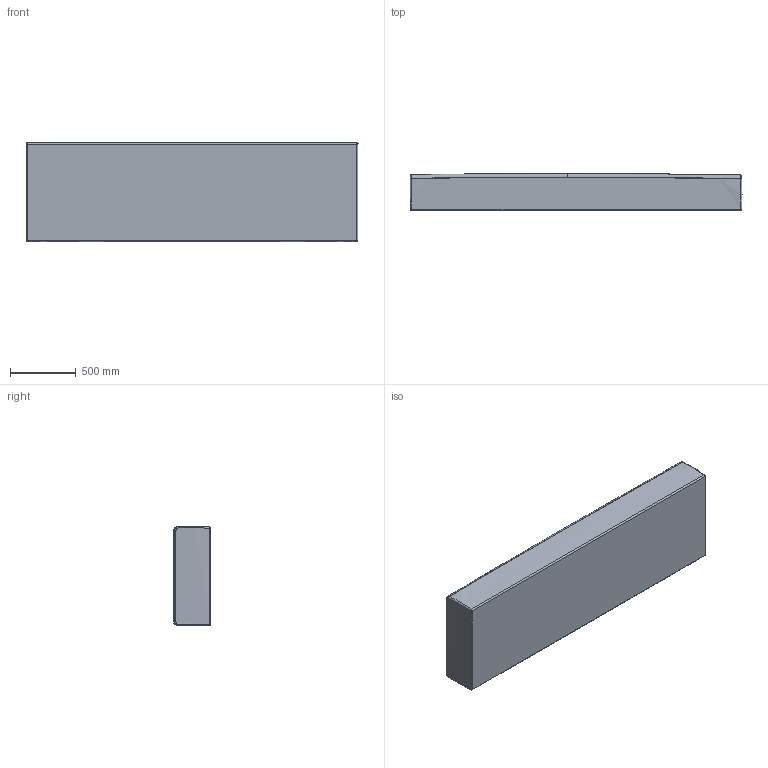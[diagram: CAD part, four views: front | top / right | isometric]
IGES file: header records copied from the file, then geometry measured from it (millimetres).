
Start section: SolidWorks IGES file using NURBS representation for surfaces
Global section: file name: D:\VICCARBE\PRODUCTOS\19-MASS\04-MODELADOS (PLANOS)\SOLIDWORKS\PIEZAS\Seats\01-IGES\VICCARBE_Mass_seat_252.IGS; native system: SolidWorks 2009; preprocessor: SolidWorks 2009; author: RUBEN; date: 110908.162230; units: millimetre
Bounding box: 2519.9 x 280.02 x 756.93 mm (x, y, z)
Surface area: 5480287.4 mm2 (no closed solid volume)
Topology: 0 solids, 0 shells, 30 faces, 330 edges, 326 vertices
Faces by surface type: bspline 30
